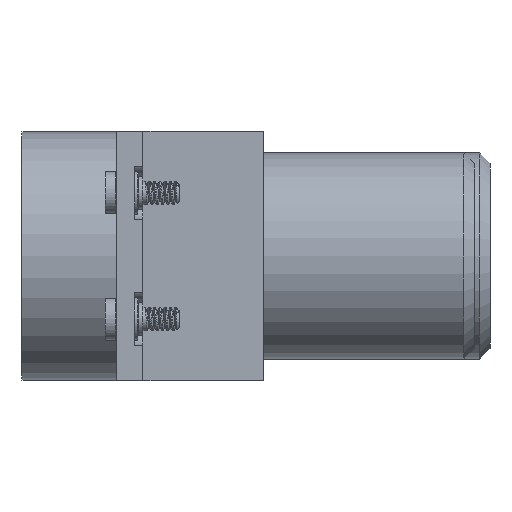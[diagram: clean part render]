
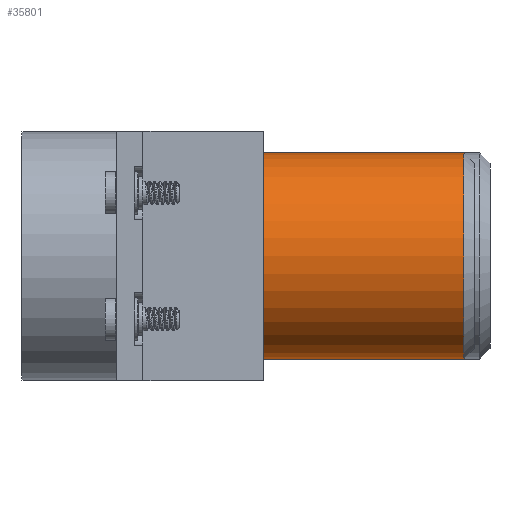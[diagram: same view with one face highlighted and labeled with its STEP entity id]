
A CAD part, left-side view. The second image highlights one B-rep face of the part: STEP entity #35801.
In plain terms, the highlighted cylindrical face has radius 12.446 mm (diameter 24.892 mm), a full revolution.
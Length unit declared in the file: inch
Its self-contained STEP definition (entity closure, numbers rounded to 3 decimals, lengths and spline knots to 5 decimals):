
#191=CYLINDRICAL_SURFACE($,#37415,0.49);
#448=CIRCLE($,#37414,0.49);
#449=CIRCLE($,#37416,0.49);
#870=FACE_BOUND($,#6055,.T.);
#3795=FACE_OUTER_BOUND($,#6054,.T.);
#6054=EDGE_LOOP($,(#30840));
#6055=EDGE_LOOP($,(#30841));
#16845=VERTEX_POINT($,#64006);
#16846=VERTEX_POINT($,#64009);
#21530=EDGE_CURVE($,#16845,#16845,#448,.T.);
#21531=EDGE_CURVE($,#16846,#16846,#449,.T.);
#30840=ORIENTED_EDGE($,*,*,#21531,.F.);
#30841=ORIENTED_EDGE($,*,*,#21530,.F.);
#35801=ADVANCED_FACE($,(#3795,#870),#191,.T.);
#37414=AXIS2_PLACEMENT_3D($,#64007,#43275,#43276);
#37415=AXIS2_PLACEMENT_3D($,#64008,#43277,#43278);
#37416=AXIS2_PLACEMENT_3D($,#64010,#43279,#43280);
#43275=DIRECTION('center_axis',(0.,-1.,0.));
#43276=DIRECTION('ref_axis',(0.,0.,-1.));
#43277=DIRECTION('center_axis',(0.,-1.,0.));
#43278=DIRECTION('ref_axis',(0.,0.,-1.));
#43279=DIRECTION('center_axis',(0.,1.,0.));
#43280=DIRECTION('ref_axis',(0.,0.,-1.));
#64006=CARTESIAN_POINT('',(-0.79126,-0.98391,0.49));
#64007=CARTESIAN_POINT('Origin',(-0.79126,-0.98391,
0.));
#64008=CARTESIAN_POINT('Origin',(-0.79126,0.49109,0.));
#64009=CARTESIAN_POINT('',(-0.79126,0.36609,0.49));
#64010=CARTESIAN_POINT('Origin',(-0.79126,0.36609,0.));
